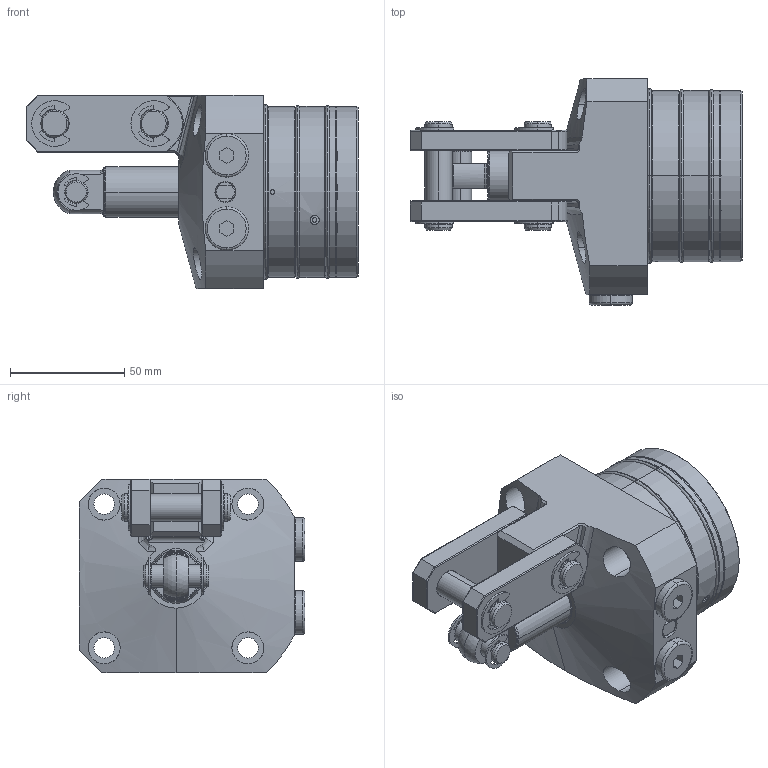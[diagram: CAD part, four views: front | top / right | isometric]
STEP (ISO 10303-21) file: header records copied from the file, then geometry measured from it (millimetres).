
FILE_DESCRIPTION(/* description */ (''),/* implementation_level */ '2;1');
FILE_NAME(/* name */ 'KTPW75-RE.stp',/* time_stamp */ '2022-11-19T16:22:04+08:00',/* author */ (''),/* organization */ (''),/* preprocessor_version */ 'ST-DEVELOPER v16.7',/* originating_system */ 'SIEMENS PLM Software NX 12.0',/* authorisation */ '');
FILE_SCHEMA (('AP203_CONFIGURATION_CONTROLLED_3D_DESIGN_OF_MECHANICAL_PARTS_AND_ASSEMBLIES_MIM_LF { 1 0 10303 403 2 1 2}'));
Length unit declared in the file: millimetre
Products named in the file (11): KTPW75-RE-06; KTPW75-RE-03; KTPW75-RE-01; KTPW75-RE-04; JZG020-29714; KTPW75-RE-05; KTPW75-RE-07; KTPW75-RE-010; KTPW75-RE-08; KTPW75-RE-02; LKW0751-CRE_step
Assembly tree (19 placements, depth 2):
  LKW0751-CRE_step
    KTPW75-RE-02
    KTPW75-RE-08  x2
    KTPW75-RE-010  x3
    KTPW75-RE-07  x4
    KTPW75-RE-05  x2
    JZG020-29714  x2
    KTPW75-RE-04  x2
    KTPW75-RE-01
    KTPW75-RE-03
    KTPW75-RE-06
Bounding box: 145.5 x 99 x 85 mm (x, y, z)
Volume: 476980.7 mm3; surface area: 84393.6 mm2
Topology: 22 solids, 22 shells, 690 faces, 1597 edges, 989 vertices
Faces by surface type: cylinder 294, plane 177, torus 132, cone 75, bspline 10, sphere 2
Full cylindrical faces by diameter (mm): 75 x1
Entity records: 14527 total; most frequent: CARTESIAN_POINT 3205, DIRECTION 2252, ORIENTED_EDGE 1912, EDGE_CURVE 956, AXIS2_PLACEMENT_3D 950, VERTEX_POINT 588, CIRCLE 515, EDGE_LOOP 480
